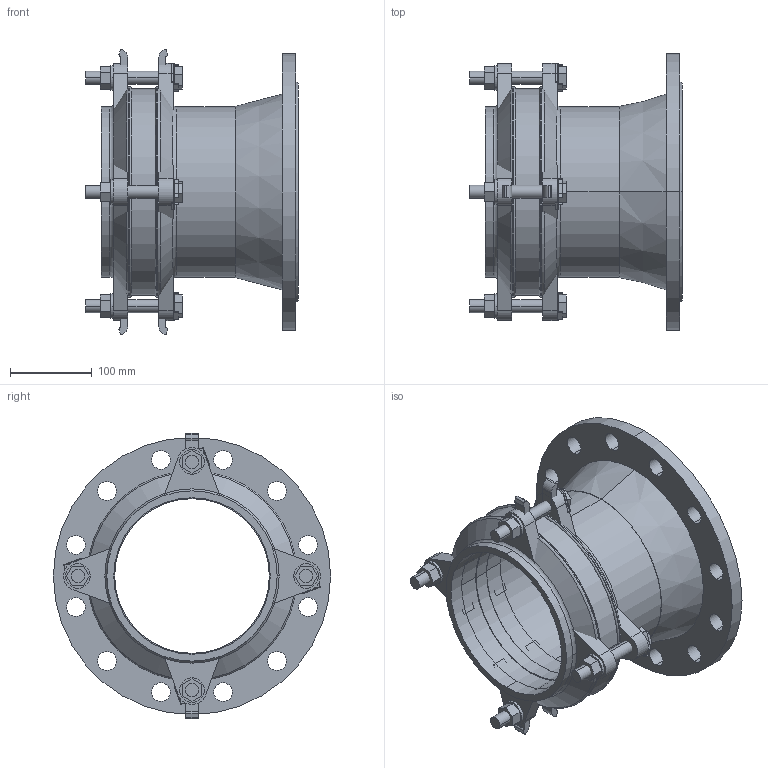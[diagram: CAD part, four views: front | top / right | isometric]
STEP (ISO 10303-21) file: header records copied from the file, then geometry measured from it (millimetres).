
FILE_DESCRIPTION(('STEP AP214'),'1');
FILE_NAME('EM10005649 DN 200-150.STP','2015-01-29T13:29:23',(' '),(' '),'Spatial InterOp 3D',' ',' ');
FILE_SCHEMA(('automotive_design'));
Length unit declared in the file: millimetre
Products named in the file (44): 3D-Objekt
Bounding box: 261 x 340 x 350 mm (x, y, z)
Volume: 3653566.8 mm3; surface area: 870187.1 mm2
Topology: 44 solids, 44 shells, 360 faces, 814 edges, 542 vertices
Faces by surface type: plane 228, cylinder 108, cone 12, torus 12
Entity records: 14090 total; most frequent: DIRECTION 1896, CARTESIAN_POINT 1760, ORIENTED_EDGE 1628, EDGE_CURVE 814, AXIS2_PLACEMENT_3D 678, VERTEX_POINT 542, LINE 540, VECTOR 540
